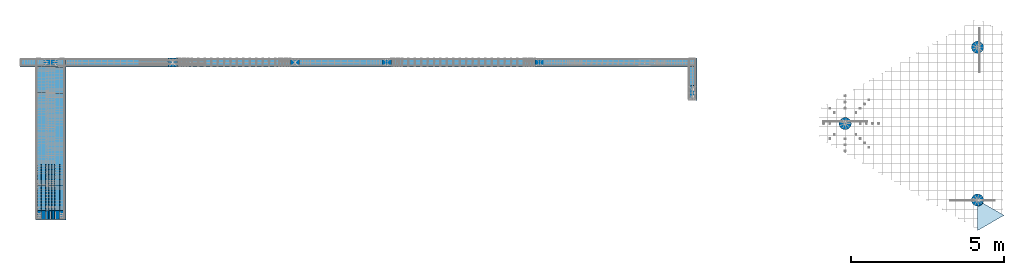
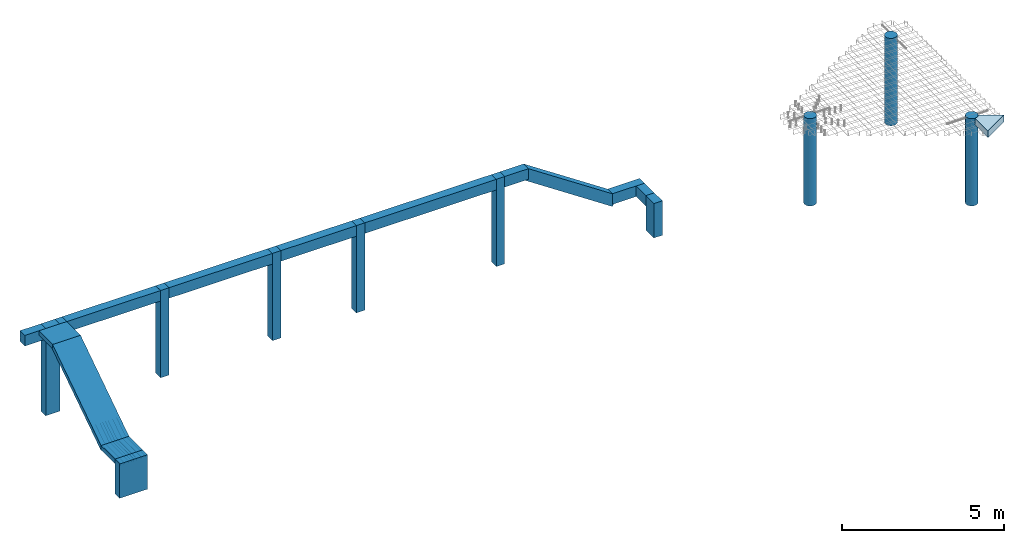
# One storey, part 1 of 24: 12 beams, 10 columns, 1 reinforcing bar, 1 slab.
"""IFC2X3 building model written with IfcOpenShell, lengths in metres."""

import ifcopenshell
import ifcopenshell.guid

model = None  # the IFC model being written
_history = None  # IfcOwnerHistory: only IFC2X3 demands one
_inside = {}  # id of a spatial element -> (the spatial element, [elements in it])
_under = {}  # id of a project, library or spatial element -> (it, [spatial elements below it])
_declared = {}  # id of a project -> (the project, [libraries it declares])
_typed = {}  # id of a type object -> (the type object, [elements of that type])
_made_of = {}  # id of a material, layer set ... -> (it, [elements and type objects made of it])


def new_model(schema):
    """Start an empty IFC model of exactly this schema.

    Asked for "IFC4X3", IfcOpenShell would pick the latest addendum, in which some entities
    have other attributes; the version numbers below select the first issue.
    IFC2X3 requires an IfcOwnerHistory on every rooted entity: one is made here for all.
    """
    global model, _history
    if schema == "IFC4X3":
        model = ifcopenshell.file(schema_version=(4, 3, 0, 0))
    else:
        model = ifcopenshell.file(schema=schema)
    _inside.clear()
    _under.clear()
    _declared.clear()
    _typed.clear()
    _made_of.clear()
    _history = None
    if model.schema == "IFC2X3":
        org = make("IfcOrganization", Name="unknown")
        user = make(
            "IfcPersonAndOrganization",
            ThePerson=make("IfcPerson", FamilyName="unknown"),
            TheOrganization=org,
        )
        app = make(
            "IfcApplication",
            ApplicationDeveloper=org,
            Version="unknown",
            ApplicationFullName="unknown",
            ApplicationIdentifier="unknown",
        )
        _history = make(
            "IfcOwnerHistory",
            OwningUser=user,
            OwningApplication=app,
            ChangeAction="ADDED",
            CreationDate=0,
        )
    return model


def make(cls, **values):
    """One entity of the class cls with the attributes given. An attribute that is None is left unset."""
    return model.create_entity(
        cls, **{name: value for name, value in values.items() if value is not None}
    )


def entity(cls, *values):
    """Any entity or typed value of the class cls, its attributes in the order of the schema. None: left unset."""
    e = model.create_entity(cls)
    for i, value in enumerate(values):
        if value is not None:
            e[i] = value
    return e


def rooted(cls, **values):
    """An entity with a GlobalId (a new one), such as an element, a storey or a relation."""
    return make(cls, GlobalId=ifcopenshell.guid.new(), OwnerHistory=_history, **values)


def si_unit(unit_type, name, prefix=None):
    """IfcSIUnit, for example si_unit("LENGTHUNIT", "METRE", prefix="MILLI")."""
    return make("IfcSIUnit", UnitType=unit_type, Prefix=prefix, Name=name)


def assignment(units):
    """IfcUnitAssignment: the units of a project."""
    return None if units is None else make("IfcUnitAssignment", Units=units)


def point(xyz):
    """IfcCartesianPoint."""
    return None if xyz is None else make("IfcCartesianPoint", Coordinates=xyz)


def direction(xyz):
    """IfcDirection."""
    return None if xyz is None else make("IfcDirection", DirectionRatios=xyz)


def frame(location, z_axis=None, x_axis=None):
    """IfcAxis2Placement3D, a coordinate frame: its origin and axes. An axis left out is left unset."""
    return make(
        "IfcAxis2Placement3D",
        Location=point(location),
        Axis=direction(z_axis),
        RefDirection=direction(x_axis),
    )


def frame_2d(location, x_axis=None):
    """IfcAxis2Placement2D, a coordinate frame in the plane: its origin and x axis."""
    return make(
        "IfcAxis2Placement2D", Location=point(location), RefDirection=direction(x_axis)
    )


def origin():
    """The frame at (0, 0, 0) with its axes left unset."""
    return frame((0.0, 0.0, 0.0))


def origin_2d_with_axis():
    """The frame at (0, 0) in the plane with the x axis (1, 0) written out."""
    return frame_2d((0.0, 0.0), x_axis=(1.0, 0.0))


def place(relative_to, where):
    """IfcLocalPlacement: puts the frame where relative to a parent placement (None: the world)."""
    return make(
        "IfcLocalPlacement", PlacementRelTo=relative_to, RelativePlacement=where
    )


def context(
    kind, dimensions, precision=None, world=None, true_north=None, identifier=None
):
    """IfcGeometricRepresentationContext, for example the 3D "Model" context."""
    return make(
        "IfcGeometricRepresentationContext",
        ContextIdentifier=identifier,
        ContextType=kind,
        CoordinateSpaceDimension=dimensions,
        Precision=precision,
        WorldCoordinateSystem=world,
        TrueNorth=true_north,
    )


def subcontext(parent, identifier, kind, view, scale=None):
    """IfcGeometricRepresentationSubContext, for example "Body" below "Model"."""
    return make(
        "IfcGeometricRepresentationSubContext",
        ContextIdentifier=identifier,
        ContextType=kind,
        ParentContext=parent,
        TargetScale=scale,
        TargetView=view,
    )


def project(units=None, contexts=None):
    """IfcProject with its units and contexts."""
    return rooted(
        "IfcProject",
        Name="project",
        RepresentationContexts=contexts,
        UnitsInContext=assignment(units),
    )


def spatial(cls, under=None, at=None, **own):
    """A site, building, storey or space (cls), placed at a placement, below another one or the project."""
    s = rooted(cls, ObjectPlacement=at, **own)
    if under is not None:
        _under.setdefault(under.id(), (under, []))[1].append(s)
    return s


def polyline(points):
    """IfcPolyline through the points."""
    return make("IfcPolyline", Points=[point(p) for p in points])


def profile(cls, at=None, kind="AREA", **sizes):
    """A parametric profile (cls). Its sizes go by their IFC names, for example OverallWidth=200.0."""
    return make(cls, ProfileType=kind, Position=at, **sizes)


def rectangle(**sizes):
    """IfcRectangleProfileDef."""
    return profile("IfcRectangleProfileDef", **sizes)


def circle(**sizes):
    """IfcCircleProfileDef."""
    return profile("IfcCircleProfileDef", **sizes)


def outline(outer, holes=None, kind="AREA"):
    """IfcArbitraryClosedProfileDef: a profile drawn as a closed curve; with holes, ...WithVoids."""
    if holes is None:
        return make("IfcArbitraryClosedProfileDef", ProfileType=kind, OuterCurve=outer)
    return make(
        "IfcArbitraryProfileDefWithVoids",
        ProfileType=kind,
        OuterCurve=outer,
        InnerCurves=holes,
    )


def extrude(swept, where, along, depth):
    """IfcExtrudedAreaSolid: the profile swept, set in the frame where, extruded along a direction by depth."""
    return make(
        "IfcExtrudedAreaSolid",
        SweptArea=swept,
        Position=where,
        ExtrudedDirection=direction(along),
        Depth=depth,
    )


def shape(context_of_items, identifier, shape_type, items):
    """IfcShapeRepresentation: the items that make up one representation, for example the "Body"."""
    return make(
        "IfcShapeRepresentation",
        ContextOfItems=context_of_items,
        RepresentationIdentifier=identifier,
        RepresentationType=shape_type,
        Items=items,
    )


def source(mapping_origin, context_of_items, identifier, shape_type, items):
    """IfcRepresentationMap: a shape defined once, which mapped items show again and again."""
    return make(
        "IfcRepresentationMap",
        MappingOrigin=mapping_origin,
        MappedRepresentation=shape(context_of_items, identifier, shape_type, items),
    )


def transform(
    local_origin,
    x_axis=None,
    y_axis=None,
    z_axis=None,
    scale=None,
    scale2=None,
    scale3=None,
    uniform=True,
):
    """IfcCartesianTransformationOperator3D, or its non-uniform kind. x_axis, y_axis, z_axis: its Axis1, 2, 3."""
    if uniform:
        return make(
            "IfcCartesianTransformationOperator3D",
            Axis1=direction(x_axis),
            Axis2=direction(y_axis),
            LocalOrigin=point(local_origin),
            Scale=scale,
            Axis3=direction(z_axis),
        )
    return make(
        "IfcCartesianTransformationOperator3DnonUniform",
        Axis1=direction(x_axis),
        Axis2=direction(y_axis),
        LocalOrigin=point(local_origin),
        Scale=scale,
        Axis3=direction(z_axis),
        Scale2=scale2,
        Scale3=scale3,
    )


def mapped(mapping_source, mapping_target):
    """IfcMappedItem: shows the shape of a source again, moved by a transform."""
    return make(
        "IfcMappedItem", MappingSource=mapping_source, MappingTarget=mapping_target
    )


def made_of(thing, what):
    """Note that an element or type object is made of a material, layer set ...; save() writes the relation."""
    if what is not None:
        _made_of.setdefault(what.id(), (what, []))[1].append(thing)
    return thing


def element(
    cls,
    number,
    at=None,
    inside=None,
    cuts=None,
    type_object=None,
    material=None,
    context=None,
    identifier="Body",
    shape_type=None,
    held_by="IfcProductDefinitionShape",
    body=None,
    shapes=None,
    **own,
):
    """One element of the class cls, such as IfcWall. Its Tag is "e" and its number.

    at: its placement. inside: the storey or other place that contains it. cuts: it is an
    opening in that element (IfcRelVoidsElement). A single representation is given by context,
    identifier, shape_type and body (its items); several are given by shapes. held_by: the class
    of the entity that holds the representations. save() writes the other relations.
    """
    e = rooted(cls, Tag="e%d" % number, ObjectPlacement=at, **own)
    if body is not None:
        shapes = [shape(context, identifier, shape_type, body)]
    if shapes is not None:
        e.Representation = make(held_by, Representations=shapes)
    if inside is not None:
        _inside.setdefault(inside.id(), (inside, []))[1].append(e)
    if cuts is not None:
        rooted(
            "IfcRelVoidsElement", RelatingBuildingElement=cuts, RelatedOpeningElement=e
        )
    if type_object is not None:
        _typed.setdefault(type_object.id(), (type_object, []))[1].append(e)
    return made_of(e, material)


def aggregate(whole, parts):
    """IfcRelAggregates: a whole, such as a stair, and the parts it consists of."""
    return rooted("IfcRelAggregates", RelatingObject=whole, RelatedObjects=parts)


def save(model, path):
    """Write the relations noted so far, then the file.

    IfcRelAggregates (storeys below a building ...), IfcRelContainedInSpatialStructure (elements
    in a storey), IfcRelDefinesByType, IfcRelAssociatesMaterial and IfcRelDeclares: one each for
    every whole, place, type object, material and project.
    """
    for whole, parts in _under.values():
        aggregate(whole, parts)
    for where, things in _inside.values():
        rooted(
            "IfcRelContainedInSpatialStructure",
            RelatedElements=things,
            RelatingStructure=where,
        )
    for kind, things in _typed.values():
        rooted("IfcRelDefinesByType", RelatedObjects=things, RelatingType=kind)
    for what, things in _made_of.values():
        rooted("IfcRelAssociatesMaterial", RelatedObjects=things, RelatingMaterial=what)
    for by, libraries in _declared.values():
        rooted("IfcRelDeclares", RelatingContext=by, RelatedDefinitions=libraries)
    model.write(path)


model = new_model("IFC2X3")

# Units and contexts
model_context = context("Model", 3, precision=0.0, world=origin(), true_north=direction((0.0, 1.0)))
plan_context = context("Plan", 3, precision=0.0, world=origin(), true_north=direction((0.0, 1.0)))
body_context = subcontext(model_context, "Body", "Model", "MODEL_VIEW", scale=1.0)
ifc_project = project(units=[si_unit("LENGTHUNIT", "METRE"), si_unit("AREAUNIT", "SQUARE_METRE"), si_unit("VOLUMEUNIT", "CUBIC_METRE"), si_unit("PLANEANGLEUNIT", "RADIAN"), si_unit("THERMODYNAMICTEMPERATUREUNIT", "DEGREE_CELSIUS"), si_unit("FORCEUNIT", "NEWTON"), si_unit("MASSUNIT", "GRAM", prefix="KILO")], contexts=[model_context, plan_context])

# Site, building, storey
placement = place(None, origin())
site = spatial("IfcSite", under=ifc_project, at=placement, Name="Default Site", CompositionType="ELEMENT")
building = spatial("IfcBuilding", under=site, at=placement, Name="Default Building", CompositionType="ELEMENT")
storey_placement = place(placement, frame((0.0, 0.0, 3.3), z_axis=(1.0, 0.0, 0.0), x_axis=(0.0, 0.0, 1.0)))
storey = spatial("IfcBuildingStorey", under=building, at=storey_placement, Name="Piano 2", CompositionType="ELEMENT", Elevation=3.3)

# Columns
column_1_placement = place(None, frame((-4.0, 0.0, 1.3), z_axis=(0.0, 0.0, -1.0), x_axis=(0.0, -1.0, 0.0)))
element("IfcColumn", 1, at=column_1_placement, inside=storey, Name="Pilastro:8 [Piano:2]", shapes=[
    shape(model_context, None, "SweptSolid", [extrude(rectangle(XDim=0.3, YDim=1.0, at=origin_2d_with_axis()), origin(), (0.0, 0.0, 1.0), 1.3)]),
])
column_2_placement = place(None, frame((-4.0, 5.0, 3.3), z_axis=(0.0, 0.0, -1.0), x_axis=(-1.0, 0.0, 0.0)))
element("IfcColumn", 2, at=column_2_placement, inside=storey, Name="Pilastro:10 [Piano:2]", shapes=[
    shape(model_context, None, "SweptSolid", [extrude(rectangle(XDim=0.5, YDim=0.3, at=origin_2d_with_axis()), origin(), (0.0, 0.0, 1.0), 3.3)]),
])
for number, where, z_axis, x_axis, name in (
    (3, (0.0, 5.0, 3.3), (0.0, 0.0, -1.0), (-1.0, 0.0, 0.0), "Pilastro:11 [Piano:2]"),
    (4, (4.0, 5.0, 3.3), (0.0, 0.0, -1.0), (-1.0, 0.0, 0.0), "Pilastro:12 [Piano:2]"),
    (5, (7.0, 5.0, 3.3), (0.0, 0.0, -1.0), (-1.0, 0.0, 0.0), "Pilastro:13 [Piano:2]"),
    (6, (12.0, 5.0, 3.3), (0.0, 0.0, -1.0), (-1.0, 0.0, 0.0), "Pilastro:16 [Piano:2]"),
):
    element("IfcColumn", number, at=place(None, frame(where, z_axis=z_axis, x_axis=x_axis)), inside=storey, Name=name, shapes=[
        shape(model_context, None, "SweptSolid", [extrude(rectangle(XDim=0.3, YDim=0.3, at=origin_2d_with_axis()), origin(), (0.0, 0.0, 1.0), 3.3)]),
    ])
for number, where, z_axis, x_axis, name in (
    (7, (22.0, 3.0, 3.3), (0.0, 0.0, -1.0), (-1.0, 0.0, 0.0), "Pilastro:17 [Piano:2]"),
    (8, (26.33, 5.5, 3.3), (0.0, 0.0, -1.0), (-1.0, 0.0, 0.0), "Pilastro:21 [Piano:2]"),
    (9, (26.33, 0.5, 3.3), (0.0, 0.0, -1.0), (-1.0, 0.0, 0.0), "Pilastro:22 [Piano:2]"),
):
    element("IfcColumn", number, at=place(None, frame(where, z_axis=z_axis, x_axis=x_axis)), inside=storey, Name=name, shapes=[
        shape(model_context, None, "SweptSolid", [extrude(circle(Radius=0.2, at=origin_2d_with_axis()), origin(), (0.0, 0.0, 1.0), 3.3)]),
    ])
column_3_placement = place(None, frame((17.0, 4.0, 1.3), z_axis=(0.0, 0.0, -1.0), x_axis=(-1.0, 0.0, 0.0)))
element("IfcColumn", 10, at=column_3_placement, inside=storey, Name="Pilastro:29 [Piano:2]", shapes=[
    shape(model_context, None, "SweptSolid", [extrude(rectangle(XDim=0.3, YDim=0.5, at=origin_2d_with_axis()), origin(), (0.0, 0.0, 1.0), 1.3)]),
])

# Beams
beam_1_placement = place(None, frame((-4.0, -0.15, 1.22), z_axis=(0.0, 1.0, 0.0), x_axis=(-1.0, 0.0, 0.0)))
element("IfcBeam", 11, at=beam_1_placement, inside=storey, Name="Trave:1 [Piano:2]", shapes=[
    shape(model_context, None, "SweptSolid", [extrude(rectangle(XDim=1.0, YDim=0.16, at=origin_2d_with_axis()), origin(), (0.0, 0.0, 1.0), 1.15)]),
])
beam_2_placement = place(None, frame((-4.0, 0.955624, 1.174268), z_axis=(0.0, 0.83205, 0.5547), x_axis=(-1.0, 0.0, 0.0)))
element("IfcBeam", 12, at=beam_2_placement, inside=storey, Name="Trave:2 [Piano:2]", shapes=[
    shape(model_context, None, "SweptSolid", [extrude(rectangle(XDim=1.0, YDim=0.16, at=origin_2d_with_axis()), origin(), (0.0, 0.0, 1.0), 3.712218)]),
])
beam_3_placement = place(None, frame((-4.0, 4.0, 3.22), z_axis=(0.0, 1.0, 0.0), x_axis=(-1.0, 0.0, 0.0)))
element("IfcBeam", 13, at=beam_3_placement, inside=storey, Name="Trave:3 [Piano:2]", shapes=[
    shape(model_context, None, "SweptSolid", [extrude(rectangle(XDim=1.0, YDim=0.16, at=origin_2d_with_axis()), origin(), (0.0, 0.0, 1.0), 1.15)]),
])
beam_4_placement = place(None, frame((-0.15, 5.0, 3.1), z_axis=(1.0, 0.0, 0.0), x_axis=(0.0, 1.0, 0.0)))
element("IfcBeam", 14, at=beam_4_placement, inside=storey, Name="Trave:4 [Piano:2]", shapes=[
    shape(model_context, None, "SweptSolid", [extrude(rectangle(XDim=0.3, YDim=0.4, at=origin_2d_with_axis()), origin(), (0.0, 0.0, 1.0), 4.3)]),
])
beam_5_placement = place(None, frame((-4.5, 5.0, 3.1), z_axis=(1.0, 0.0, 0.0), x_axis=(0.0, 1.0, 0.0)))
element("IfcBeam", 15, at=beam_5_placement, inside=storey, Name="Trave:5 [Piano:2]", shapes=[
    shape(model_context, None, "SweptSolid", [extrude(rectangle(XDim=0.3, YDim=0.4, at=origin_2d_with_axis()), origin(), (0.0, 0.0, 1.0), 4.65)]),
])
beam_6_placement = place(None, frame((3.85, 5.0, 3.1), z_axis=(1.0, 0.0, 0.0), x_axis=(0.0, 1.0, 0.0)))
element("IfcBeam", 16, at=beam_6_placement, inside=storey, Name="Trave:6 [Piano:2]", shapes=[
    shape(model_context, None, "SweptSolid", [extrude(rectangle(XDim=0.3, YDim=0.4, at=origin_2d_with_axis()), origin(), (0.0, 0.0, 1.0), 3.3)]),
])
beam_7_placement = place(None, frame((6.85, 5.0, 3.1), z_axis=(1.0, 0.0, 0.0), x_axis=(0.0, 1.0, 0.0)))
element("IfcBeam", 17, at=beam_7_placement, inside=storey, Name="Trave:7 [Piano:2]", shapes=[
    shape(model_context, None, "SweptSolid", [extrude(rectangle(XDim=0.3, YDim=0.4, at=origin_2d_with_axis()), origin(), (0.0, 0.0, 1.0), 5.3)]),
])
beam_8_placement = place(None, frame((11.85, 5.0, 3.1), z_axis=(1.0, 0.0, 0.0), x_axis=(0.0, 1.0, 0.0)))
element("IfcBeam", 18, at=beam_8_placement, inside=storey, Name="Trave:8 [Piano:2]", shapes=[
    shape(model_context, None, "SweptSolid", [extrude(rectangle(XDim=0.3, YDim=0.4, at=origin_2d_with_axis()), origin(), (0.0, 0.0, 1.0), 1.15)]),
])
beam_9_placement = place(None, frame((-5.0, 5.0, 3.1), z_axis=(1.0, 0.0, 0.0), x_axis=(0.0, 1.0, 0.0)))
element("IfcBeam", 19, at=beam_9_placement, inside=storey, Name="Trave:9 [Piano:2]", shapes=[
    shape(model_context, None, "SweptSolid", [extrude(rectangle(XDim=0.3, YDim=0.4, at=origin_2d_with_axis()), origin(), (0.0, 0.0, 1.0), 1.5)]),
])
beam_10_placement = place(None, frame((16.11094, 5.0, 0.98567), z_axis=(-0.83205, 0.0, 0.5547), x_axis=(0.0, -1.0, 0.0)))
element("IfcBeam", 20, at=beam_10_placement, inside=storey, Name="Trave:10 [Piano:2]", shapes=[
    shape(model_context, None, "SweptSolid", [extrude(rectangle(XDim=0.3, YDim=0.4, at=origin_2d_with_axis()), origin(), (0.0, 0.0, 1.0), 3.872218)]),
])
beam_11_placement = place(None, frame((17.15, 5.0, 1.1), z_axis=(-1.0, 0.0, 0.0), x_axis=(0.0, -1.0, 0.0)))
element("IfcBeam", 21, at=beam_11_placement, inside=storey, Name="Trave:11 [Piano:2]", shapes=[
    shape(model_context, None, "SweptSolid", [extrude(rectangle(XDim=0.3, YDim=0.4, at=origin_2d_with_axis()), origin(), (0.0, 0.0, 1.0), 1.15)]),
])
beam_12_placement = place(None, frame((17.0, 3.75, 1.1), z_axis=(0.0, 1.0, 0.0), x_axis=(-1.0, 0.0, 0.0)))
element("IfcBeam", 22, at=beam_12_placement, inside=storey, Name="Trave:12 [Piano:2]", shapes=[
    shape(model_context, None, "SweptSolid", [extrude(rectangle(XDim=0.3, YDim=0.4, at=origin_2d_with_axis()), origin(), (0.0, 0.0, 1.0), 1.4)]),
])

# Slab
slab_placement = place(None, frame((26.618667, 0.0, 3.3), z_axis=(0.0, 0.0, -1.0), x_axis=(-1.0, 0.0, 0.0)))
element("IfcSlab", 23, at=slab_placement, inside=storey, Name="Parete:4 [Piano:2]", PredefinedType="FLOOR", shapes=[
    shape(model_context, None, "SweptSolid", [extrude(outline(polyline([(0.288667, 0.5), (-0.577333, 0.0), (0.288667, -0.5)])), origin(), (0.0, 0.0, 1.0), 0.25)]),
])

# Reinforcing bar
shared_shape_1 = source(origin(), body_context, None, "AdvancedSweptSolid", [
    entity("IfcSweptDiskSolid", entity("IfcCompositeCurve", [entity("IfcCompositeCurveSegment", "CONTINUOUS", True, entity("IfcPolyline", [entity("IfcCartesianPoint", [0.0, 0.0, 0.0]), entity("IfcCartesianPoint", [0.007309, 0.0, 0.036544]), entity("IfcCartesianPoint", [0.010054, 0.003751, 0.050272]), entity("IfcCartesianPoint", [0.012064, 0.014, 0.060322]), entity("IfcCartesianPoint", [0.0128, 0.028, 0.064]), entity("IfcCartesianPoint", [0.0128, 1.125625, 0.064]), entity("IfcCartesianPoint", [0.0128, 1.232525, 0.064]), entity("IfcCartesianPoint", [0.0128, 1.248056, 0.068703]), entity("IfcCartesianPoint", [0.0128, 1.785681, 0.427119])]))], False), 0.007, 0.0, 0.0),
])
shared_shape_2 = source(origin(), body_context, None, "MappedRepresentation", [mapped(shared_shape_1, transform((-3.5718, -0.112, 1.198)))])
shared_shape_3 = source(origin(), body_context, None, "AdvancedSweptSolid", [
    entity("IfcSweptDiskSolid", entity("IfcCompositeCurve", [entity("IfcCompositeCurveSegment", "CONTINUOUS", True, entity("IfcPolyline", [entity("IfcCartesianPoint", [0.0, 0.0, 0.0]), entity("IfcCartesianPoint", [0.007309, 0.0, 0.036544]), entity("IfcCartesianPoint", [0.010054, 0.003751, 0.050272]), entity("IfcCartesianPoint", [0.012064, 0.014, 0.060322]), entity("IfcCartesianPoint", [0.0128, 0.028, 0.064]), entity("IfcCartesianPoint", [0.0128, 1.125625, 0.064]), entity("IfcCartesianPoint", [0.0128, 1.232525, 0.064]), entity("IfcCartesianPoint", [0.0128, 1.248056, 0.068703]), entity("IfcCartesianPoint", [0.0128, 1.785681, 0.427119])]))], False), 0.007, 0.0, 0.0),
])
shared_shape_4 = source(origin(), body_context, None, "MappedRepresentation", [mapped(shared_shape_3, transform((-3.716467, -0.112, 1.198)))])
shared_shape_5 = source(origin(), body_context, None, "AdvancedSweptSolid", [
    entity("IfcSweptDiskSolid", entity("IfcCompositeCurve", [entity("IfcCompositeCurveSegment", "CONTINUOUS", True, entity("IfcPolyline", [entity("IfcCartesianPoint", [0.0, 0.0, 0.0]), entity("IfcCartesianPoint", [0.007309, 0.0, 0.036544]), entity("IfcCartesianPoint", [0.010054, 0.003751, 0.050272]), entity("IfcCartesianPoint", [0.012064, 0.014, 0.060322]), entity("IfcCartesianPoint", [0.0128, 0.028, 0.064]), entity("IfcCartesianPoint", [0.0128, 1.125625, 0.064]), entity("IfcCartesianPoint", [0.0128, 1.232525, 0.064]), entity("IfcCartesianPoint", [0.0128, 1.248056, 0.068703]), entity("IfcCartesianPoint", [0.0128, 1.785681, 0.427119])]))], False), 0.007, 0.0, 0.0),
])
shared_shape_6 = source(origin(), body_context, None, "MappedRepresentation", [mapped(shared_shape_5, transform((-3.875467, -0.112, 1.198)))])
shared_shape_7 = source(origin(), body_context, None, "AdvancedSweptSolid", [
    entity("IfcSweptDiskSolid", entity("IfcCompositeCurve", [entity("IfcCompositeCurveSegment", "CONTINUOUS", True, entity("IfcPolyline", [entity("IfcCartesianPoint", [0.0, 0.0, 0.0]), entity("IfcCartesianPoint", [0.007309, 0.0, 0.036544]), entity("IfcCartesianPoint", [0.010054, 0.003751, 0.050272]), entity("IfcCartesianPoint", [0.012064, 0.014, 0.060322]), entity("IfcCartesianPoint", [0.0128, 0.028, 0.064]), entity("IfcCartesianPoint", [0.0128, 1.125625, 0.064]), entity("IfcCartesianPoint", [0.0128, 1.232525, 0.064]), entity("IfcCartesianPoint", [0.0128, 1.248056, 0.068703]), entity("IfcCartesianPoint", [0.0128, 1.785681, 0.427119])]))], False), 0.007, 0.0, 0.0),
])
shared_shape_8 = source(origin(), body_context, None, "MappedRepresentation", [mapped(shared_shape_7, transform((-3.971689, -0.112, 1.198)))])
shared_shape_9 = source(origin(), body_context, None, "AdvancedSweptSolid", [
    entity("IfcSweptDiskSolid", entity("IfcCompositeCurve", [entity("IfcCompositeCurveSegment", "CONTINUOUS", True, entity("IfcPolyline", [entity("IfcCartesianPoint", [0.0, 0.0, 0.0]), entity("IfcCartesianPoint", [0.007309, 0.0, 0.036544]), entity("IfcCartesianPoint", [0.010054, 0.003751, 0.050272]), entity("IfcCartesianPoint", [0.012064, 0.014, 0.060322]), entity("IfcCartesianPoint", [0.0128, 0.028, 0.064]), entity("IfcCartesianPoint", [0.0128, 1.125625, 0.064]), entity("IfcCartesianPoint", [0.0128, 1.232525, 0.064]), entity("IfcCartesianPoint", [0.0128, 1.248056, 0.068703]), entity("IfcCartesianPoint", [0.0128, 1.785681, 0.427119])]))], False), 0.007, 0.0, 0.0),
])
shared_shape_10 = source(origin(), body_context, None, "MappedRepresentation", [mapped(shared_shape_9, transform((-4.067911, -0.112, 1.198)))])
shared_shape_11 = source(origin(), body_context, None, "AdvancedSweptSolid", [
    entity("IfcSweptDiskSolid", entity("IfcCompositeCurve", [entity("IfcCompositeCurveSegment", "CONTINUOUS", True, entity("IfcPolyline", [entity("IfcCartesianPoint", [0.0, 0.0, 0.0]), entity("IfcCartesianPoint", [0.007309, 0.0, 0.036544]), entity("IfcCartesianPoint", [0.010054, 0.003751, 0.050272]), entity("IfcCartesianPoint", [0.012064, 0.014, 0.060322]), entity("IfcCartesianPoint", [0.0128, 0.028, 0.064]), entity("IfcCartesianPoint", [0.0128, 1.125625, 0.064]), entity("IfcCartesianPoint", [0.0128, 1.232525, 0.064]), entity("IfcCartesianPoint", [0.0128, 1.248056, 0.068703]), entity("IfcCartesianPoint", [0.0128, 1.785681, 0.427119])]))], False), 0.007, 0.0, 0.0),
])
shared_shape_12 = source(origin(), body_context, None, "MappedRepresentation", [mapped(shared_shape_11, transform((-4.164133, -0.112, 1.198)))])
shared_shape_13 = source(origin(), body_context, None, "AdvancedSweptSolid", [
    entity("IfcSweptDiskSolid", entity("IfcCompositeCurve", [entity("IfcCompositeCurveSegment", "CONTINUOUS", True, entity("IfcPolyline", [entity("IfcCartesianPoint", [0.0, 0.0, 0.0]), entity("IfcCartesianPoint", [0.007309, 0.0, 0.036544]), entity("IfcCartesianPoint", [0.010054, 0.003751, 0.050272]), entity("IfcCartesianPoint", [0.012064, 0.014, 0.060322]), entity("IfcCartesianPoint", [0.0128, 0.028, 0.064]), entity("IfcCartesianPoint", [0.0128, 1.125625, 0.064]), entity("IfcCartesianPoint", [0.0128, 1.232525, 0.064]), entity("IfcCartesianPoint", [0.0128, 1.248056, 0.068703]), entity("IfcCartesianPoint", [0.0128, 1.785681, 0.427119])]))], False), 0.007, 0.0, 0.0),
])
shared_shape_14 = source(origin(), body_context, None, "MappedRepresentation", [mapped(shared_shape_13, transform((-4.323133, -0.112, 1.198)))])
shared_shape_15 = source(origin(), body_context, None, "AdvancedSweptSolid", [
    entity("IfcSweptDiskSolid", entity("IfcCompositeCurve", [entity("IfcCompositeCurveSegment", "CONTINUOUS", True, entity("IfcPolyline", [entity("IfcCartesianPoint", [0.0, 0.0, 0.0]), entity("IfcCartesianPoint", [0.007309, 0.0, 0.036544]), entity("IfcCartesianPoint", [0.010054, 0.003751, 0.050272]), entity("IfcCartesianPoint", [0.012064, 0.014, 0.060322]), entity("IfcCartesianPoint", [0.0128, 0.028, 0.064]), entity("IfcCartesianPoint", [0.0128, 1.125625, 0.064]), entity("IfcCartesianPoint", [0.0128, 1.232525, 0.064]), entity("IfcCartesianPoint", [0.0128, 1.248056, 0.068703]), entity("IfcCartesianPoint", [0.0128, 1.785681, 0.427119])]))], False), 0.007, 0.0, 0.0),
])
shared_shape_16 = source(origin(), body_context, None, "MappedRepresentation", [mapped(shared_shape_15, transform((-4.4538, -0.112, 1.198)))])
element("IfcReinforcingBar", 24, at=placement, inside=storey, Name="Arm Superiore; Trave:1 [Piano:2]", BarLength=15.673893, BarRole="MAIN", BarSurface="TEXTURED", NominalDiameter=0.014, shapes=[
    shape(body_context, None, "MappedRepresentation", [mapped(shared_shape_2, transform((0.0, 0.0, 0.0))), mapped(shared_shape_4, transform((0.0, 0.0, 0.0))), mapped(shared_shape_6, transform((0.0, 0.0, 0.0))), mapped(shared_shape_8, transform((0.0, 0.0, 0.0))), mapped(shared_shape_10, transform((0.0, 0.0, 0.0))), mapped(shared_shape_12, transform((0.0, 0.0, 0.0))), mapped(shared_shape_14, transform((0.0, 0.0, 0.0))), mapped(shared_shape_16, transform((0.0, 0.0, 0.0)))]),
])

save(model, "model.ifc")
